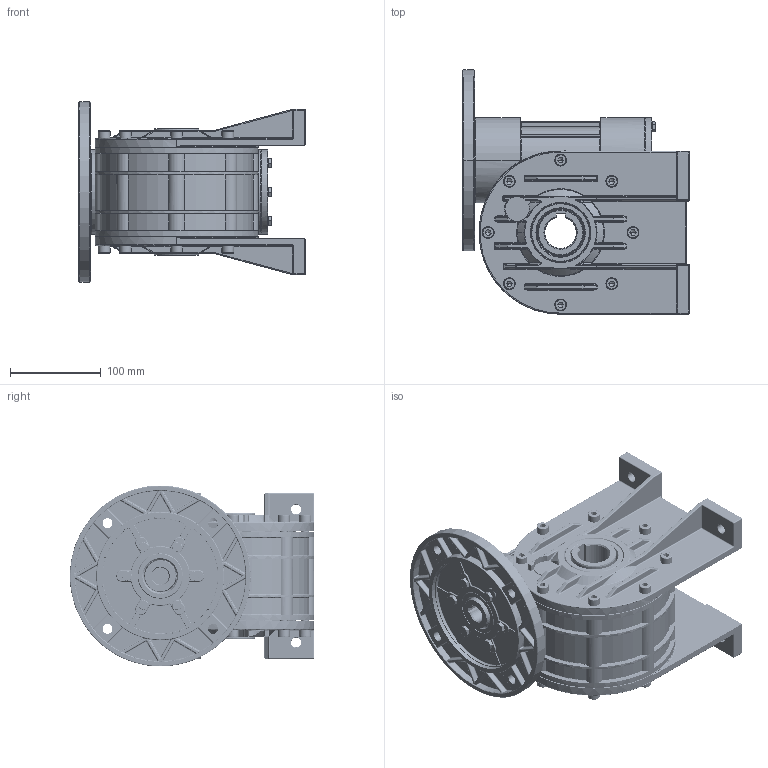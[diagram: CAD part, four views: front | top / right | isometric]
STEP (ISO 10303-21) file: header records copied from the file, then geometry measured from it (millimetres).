
FILE_DESCRIPTION (( 'STEP AP203' ), '1' );
FILE_NAME ('3F002245.STEP', '2012-07-23T16:51:39', ( 'Amministratore' ), ( 'SerteK sas' ), 'SwSTEP 2.0', 'SolidWorks 2009', '' );
FILE_SCHEMA (( 'CONFIG_CONTROL_DESIGN' ));
Length unit declared in the file: millimetre
Products named in the file (1): 3F002245
Bounding box: 250 x 270.08 x 200 mm (x, y, z)
Surface area: 661490.2 mm2 (no closed solid volume)
Topology: 0 solids, 40 shells, 4102 faces, 10397 edges, 6176 vertices
Faces by surface type: bspline 1491, cylinder 1395, plane 729, cone 487
Entity records: 256971 total; most frequent: CARTESIAN_POINT 174741, ORIENTED_EDGE 20160, DIRECTION 12636, EDGE_CURVE 10096, VERTEX_POINT 6176, AXIS2_PLACEMENT_3D 4946, B_SPLINE_CURVE_WITH_KNOTS 4393, EDGE_LOOP 4344
